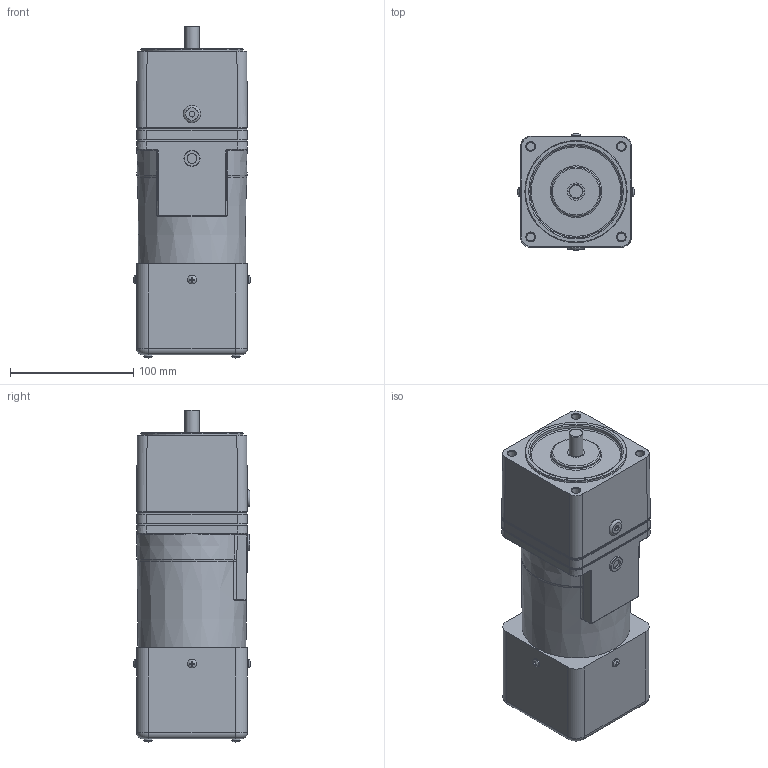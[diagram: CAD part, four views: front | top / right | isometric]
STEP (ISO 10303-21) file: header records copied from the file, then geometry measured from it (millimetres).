
FILE_DESCRIPTION (( 'STEP AP214' ), '1' );
FILE_NAME ('9CIDG¤±-90F2P.STEP', '2025-01-13T08:08:26', ( '' ), ( '' ), 'SwSTEP 2.0', 'SolidWorks 2024', '' );
FILE_SCHEMA (( 'AUTOMOTIVE_DESIGN' ));
Length unit declared in the file: millimetre
Products named in the file (1): 9CIDGㅁ-90F2P
Bounding box: 95.13 x 95.13 x 269.6 mm (x, y, z)
Volume: 1767468.2 mm3; surface area: 122529.8 mm2
Topology: 1 solids, 2 shells, 496 faces, 1233 edges, 792 vertices
Faces by surface type: plane 231, cylinder 141, cone 46, bspline 40, torus 36, sphere 2
Full cylindrical faces by diameter (mm): 4.8 x1, 6.5 x4, 7 x12, 8 x1, 10 x1, 11.39 x1, 13 x1, 14 x2, 40 x1, 83 x1, 83.1 x1
Entity records: 15262 total; most frequent: CARTESIAN_POINT 4171, ORIENTED_EDGE 2256, DIRECTION 2197, EDGE_CURVE 1128, AXIS2_PLACEMENT_3D 829, VERTEX_POINT 769, EDGE_LOOP 637, VECTOR 539
